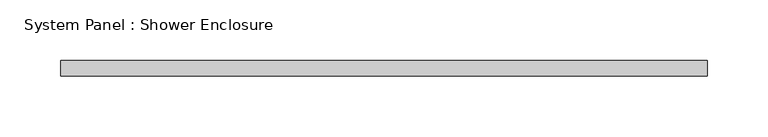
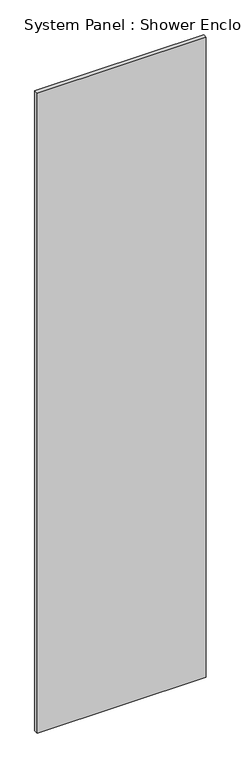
"""IFC4 building model written with IfcOpenShell, lengths in millimetres: plate geometry, System Panel : Shower Enclosure."""

from ifc_helpers import new_model, si_unit, origin, origin_with_axes, place, context, project, spatial, polyline, outline, extrude, source, transform, mapped, element, save


def system_panel_shower_enclosure_54e57cb4(model_context):
    return source(origin(), model_context, "Body", "SweptSolid", [
        extrude(outline(polyline([(266.7, -12.7), (-266.7, -12.7), (-266.7, 0.0), (266.7, 0.0), (266.7, -12.7)])), origin_with_axes(), (0.0, 0.0, 1.0), 2133.6),
    ])


if __name__ == "__main__":
    model = new_model("IFC4")
    model_context = context("Model", 3, world=origin())
    ifc_project = project(units=[si_unit("LENGTHUNIT", "METRE", prefix="MILLI")], contexts=[model_context])
    site = spatial("IfcSite", under=ifc_project)
    building = spatial("IfcBuilding", under=site)
    placement = place(None, origin())
    system_panel_shower_enclosure_shape = system_panel_shower_enclosure_54e57cb4(model_context)
    element("IfcPlate", 1, ObjectType="System Panel : Shower Enclosure", at=placement, inside=building, context=model_context, shape_type="MappedRepresentation", body=[
        mapped(system_panel_shower_enclosure_shape, transform((0.0, 0.0, 0.0), x_axis=(1.0, 0.0, 0.0), y_axis=(0.0, 1.0, 0.0), z_axis=(0.0, 0.0, 1.0))),
    ])
    save(model, "model.ifc")
